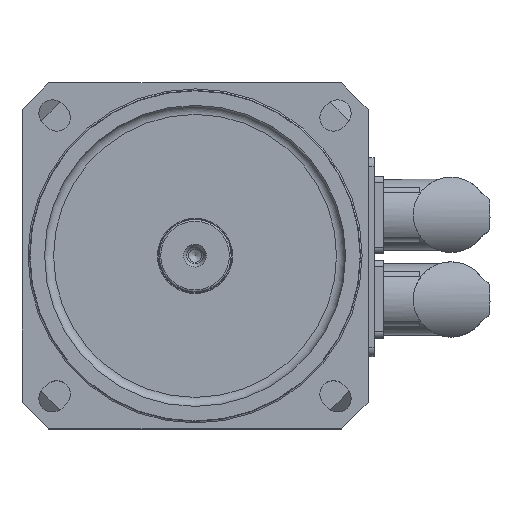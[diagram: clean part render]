
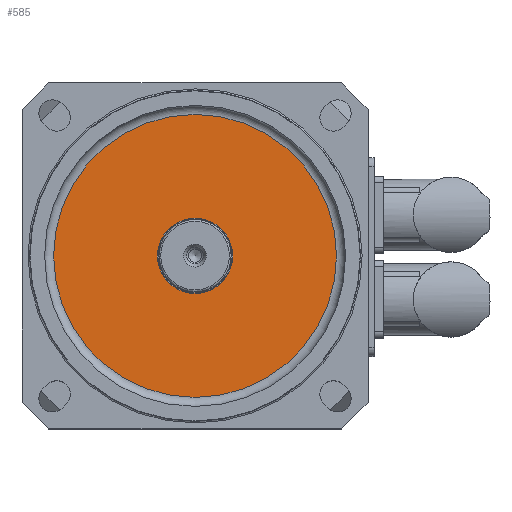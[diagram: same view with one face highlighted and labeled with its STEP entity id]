
A CAD part, top view. The second image highlights one B-rep face of the part: STEP entity #585.
In plain terms, the highlighted planar face has unit normal (0, 0, 1).
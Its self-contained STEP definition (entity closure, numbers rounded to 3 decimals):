
#585=ADVANCED_FACE('',(#908),#837,.F.);
#837=PLANE('',#4868);
#908=FACE_OUTER_BOUND('',#1169,.T.);
#1169=EDGE_LOOP('',(#1894));
#1493=CIRCLE('',#4867,47.);
#1894=ORIENTED_EDGE('',*,*,#3697,.T.);
#3188=VERTEX_POINT('',#7171);
#3697=EDGE_CURVE('',#3188,#3188,#1493,.T.);
#4867=AXIS2_PLACEMENT_3D('',#7170,#5549,#5550);
#4868=AXIS2_PLACEMENT_3D('',#7172,#5551,#5552);
#5549=DIRECTION('',(0.,0.,1.));
#5550=DIRECTION('',(-1.,0.,0.));
#5551=DIRECTION('',(0.,0.,-1.));
#5552=DIRECTION('',(-1.,0.,0.));
#7170=CARTESIAN_POINT('',(0.,0.,31.));
#7171=CARTESIAN_POINT('',(-47.,0.,31.));
#7172=CARTESIAN_POINT('',(0.,0.,31.));
